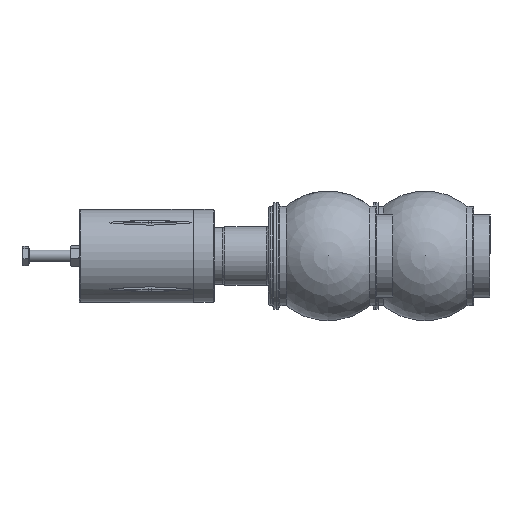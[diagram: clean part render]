
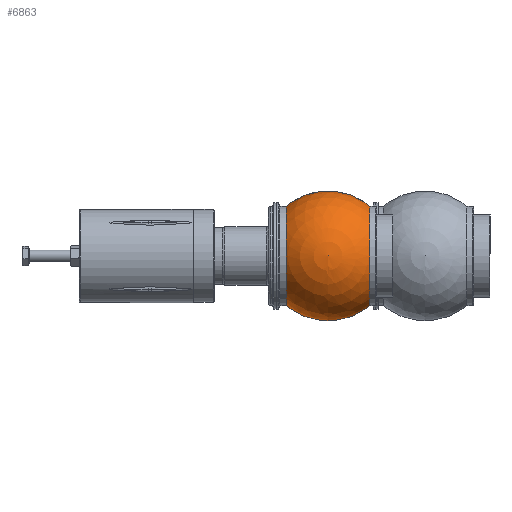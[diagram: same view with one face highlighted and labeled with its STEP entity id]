
A CAD part, left-side view. The second image highlights one B-rep face of the part: STEP entity #6863.
In plain terms, the highlighted spherical face has radius 79 mm.
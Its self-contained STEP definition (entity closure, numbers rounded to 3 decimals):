
#6703=CARTESIAN_POINT('',(0.,129.2,61.));
#6704=VERTEX_POINT('',#6703);
#6705=CARTESIAN_POINT('',(0.0,79.,61.));
#6706=DIRECTION('',(0.0,0.0,-1.0));
#6707=DIRECTION('',(0.0,-1.0,0.0));
#6708=AXIS2_PLACEMENT_3D('',#6705,#6706,#6707);
#6709=CIRCLE('',#6708,50.2);
#6710=EDGE_CURVE('',#6704,#6704,#6709,.T.);
#6826=CARTESIAN_POINT('',(-60.5,28.199,0.0));
#6827=VERTEX_POINT('',#6826);
#6828=CARTESIAN_POINT('',(0.0,28.199,0.0));
#6829=DIRECTION('',(0.0,1.0,0.0));
#6830=DIRECTION('',(-1.0,0.0,0.0));
#6831=AXIS2_PLACEMENT_3D('',#6828,#6829,#6830);
#6832=CIRCLE('',#6831,60.5);
#6833=EDGE_CURVE('',#6827,#6827,#6832,.T.);
#6841=CARTESIAN_POINT('',(0.0,79.,0.0));
#6842=DIRECTION('',(0.0,0.0,1.0));
#6843=DIRECTION('',(1.0,0.0,0.0));
#6844=AXIS2_PLACEMENT_3D('',#6841,#6842,#6843);
#6845=SPHERICAL_SURFACE('',#6844,79.);
#6846=ORIENTED_EDGE('',*,*,#6710,.T.);
#6847=EDGE_LOOP('',(#6846));
#6848=FACE_OUTER_BOUND('',#6847,.T.);
#6849=ORIENTED_EDGE('',*,*,#6833,.T.);
#6850=EDGE_LOOP('',(#6849));
#6851=FACE_BOUND('',#6850,.T.);
#6852=CARTESIAN_POINT('',(-60.5,129.801,0.0));
#6853=VERTEX_POINT('',#6852);
#6854=CARTESIAN_POINT('',(0.0,129.801,0.0));
#6855=DIRECTION('',(0.0,1.0,0.0));
#6856=DIRECTION('',(-1.0,0.0,0.0));
#6857=AXIS2_PLACEMENT_3D('',#6854,#6855,#6856);
#6858=CIRCLE('',#6857,60.5);
#6859=EDGE_CURVE('',#6853,#6853,#6858,.T.);
#6860=ORIENTED_EDGE('',*,*,#6859,.F.);
#6861=EDGE_LOOP('',(#6860));
#6862=FACE_BOUND('',#6861,.T.);
#6863=ADVANCED_FACE('',(#6848,#6851,#6862),#6845,.T.);
